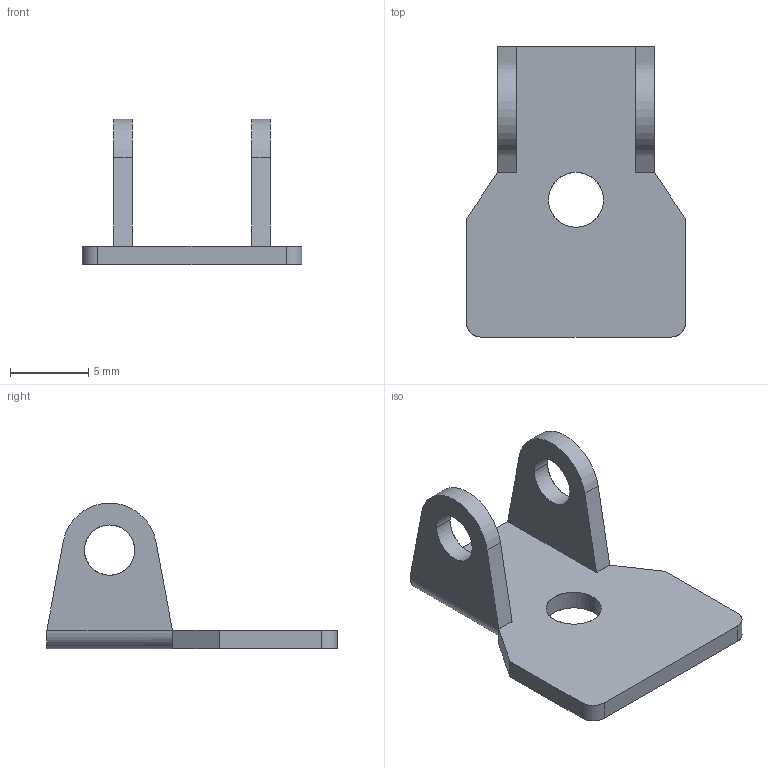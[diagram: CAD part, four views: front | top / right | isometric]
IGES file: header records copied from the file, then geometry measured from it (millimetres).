
Start section: SolidWorks IGES FILE using analytic representation for surfaces
Global section: file name: C:\WINNT\Profiles\cbrechard\Bureau\GE 573\532.020.00.IGS; native system: SolidWorks 2001Plus by SolidWorks Corporation; preprocessor: Version 5.3; author: CBRECHARD; date: 050125.144641; units: millimetre
Bounding box: 14 x 18.5 x 9.3 mm (x, y, z)
Surface area: 725.7 mm2 (no closed solid volume)
Topology: 0 solids, 0 shells, 34 faces, 472 edges, 472 vertices
Faces by surface type: bspline 22, revolution 12
